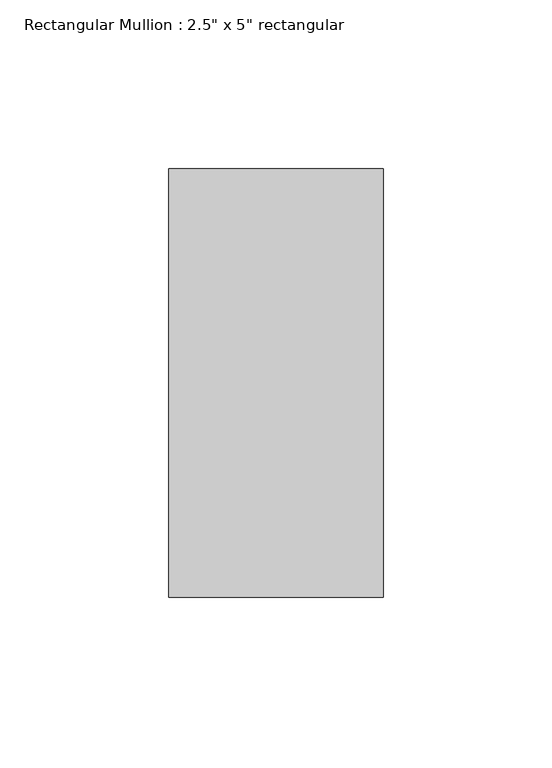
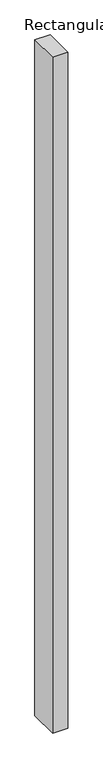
"""IFC4 building model written with IfcOpenShell, lengths in millimetres: member geometry."""

from ifc_helpers import new_model, si_unit, frame, origin, place, context, project, spatial, polyline, outline, extrude, source, transform, mapped, element, save


def member_5bcf4c48(model_context):
    return source(origin(), model_context, "Body", "SweptSolid", [
        extrude(outline(polyline([(0.0, 63.5), (0.0, -63.5), (-63.5, -63.5), (-63.5, 63.5), (0.0, 63.5)])), frame((0.0, 0.0, -2971.4252182), z_axis=(0.0, 0.0, 1.0), x_axis=(1.0, 0.0, 0.0)), (0.0, 0.0, 1.0), 2971.4252182),
    ])


if __name__ == "__main__":
    model = new_model("IFC4")
    model_context = context("Model", 3, world=origin())
    ifc_project = project(units=[si_unit("LENGTHUNIT", "METRE", prefix="MILLI")], contexts=[model_context])
    site = spatial("IfcSite", under=ifc_project)
    building = spatial("IfcBuilding", under=site)
    placement = place(None, origin())
    member_shape = member_5bcf4c48(model_context)
    element("IfcMember", 1, ObjectType="Rectangular Mullion : 2.5\" x 5\" rectangular", at=placement, inside=building, context=model_context, shape_type="MappedRepresentation", body=[
        mapped(member_shape, transform((0.0, 0.0, 0.0), x_axis=(1.0, 0.0, 0.0), y_axis=(0.0, 1.0, 0.0), z_axis=(0.0, 0.0, 1.0))),
    ])
    save(model, "model.ifc")
